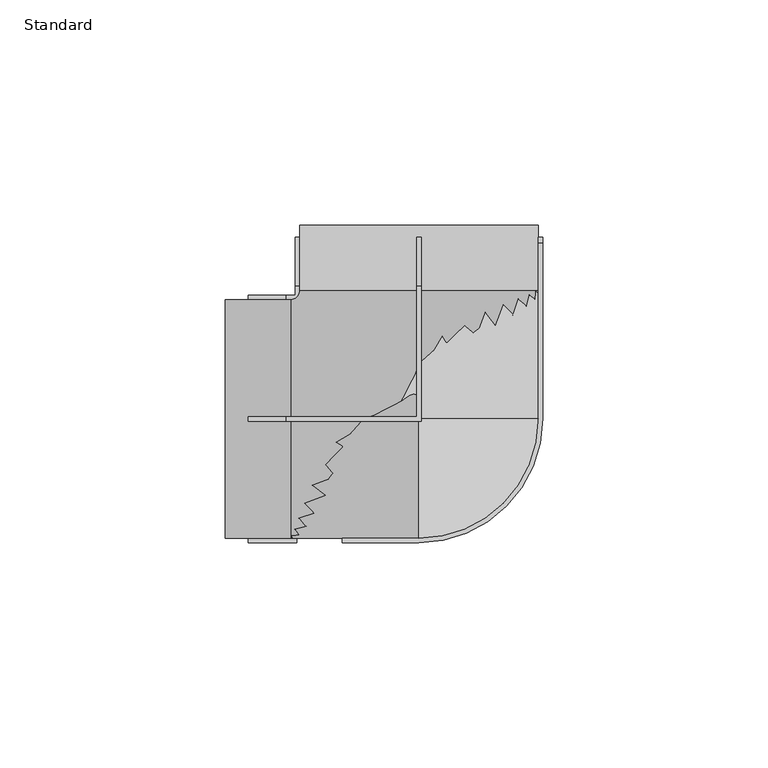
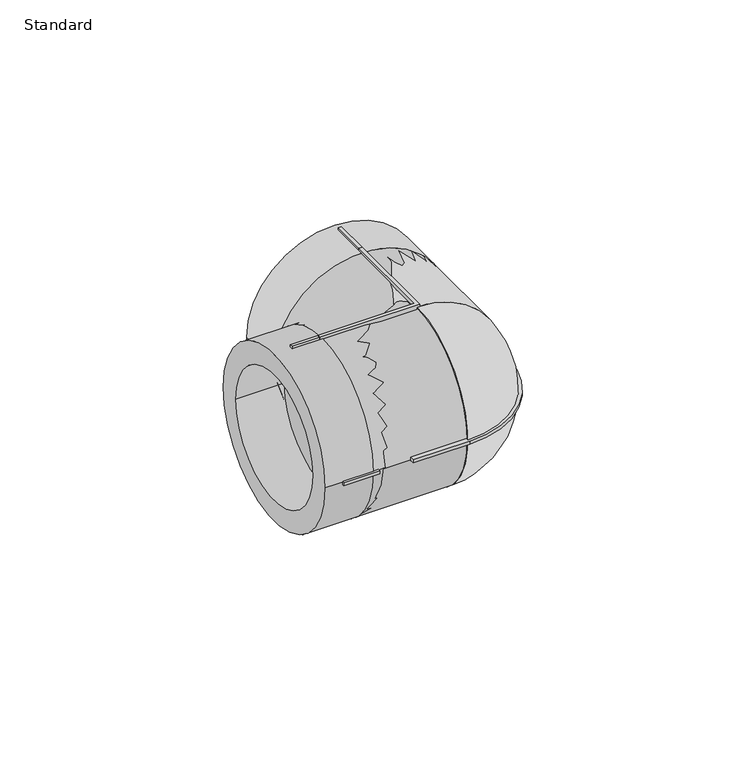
"""IFC4 building model written with IfcOpenShell, lengths in millimetres: pipe fitting geometry, EGB_VASEN_ PPR_Codo 90 WXR200_Codo 45 WXR220  : Standard."""

from ifc_helpers import new_model, si_unit, point, frame, origin, origin_2d, place, context, project, spatial, polyline, circle_curve, ellipse_curve, trimmed, segment, composite_curve, outline, extrude, source, transform, mapped, element, save
from ifc_brep_helpers import plane_surface, cylinder_surface, revolved_surface, advanced_brep


def standard_5305a469(model_context):
    return source(origin(), model_context, "Body", "SolidModel", [
        advanced_brep(
        [(0.0, 0.0, -26.5), (0.0, 0.0, 26.5)],
        [
            (0, 1, circle_curve(frame((0.0, 0.0, 0.0), z_axis=(-1.0, 0.0, 0.0), x_axis=(0.0, 1.0, 0.0)), 26.5)),
            (1, 0),
            (1, 0, circle_curve(frame((0.0, 0.0, 0.0), z_axis=(0.0, 1.0, 0.0), x_axis=(-1.0, 0.0, 0.0)), 26.5)),
        ],
        [
            plane_surface(frame((0.0, 0.0, 36.5431585), z_axis=(-1.0, 0.0, 0.0), x_axis=(0.0, -1.0, 0.0))),
            plane_surface(frame((0.0, 0.0, 36.5431585), z_axis=(0.0, 1.0, 0.0), x_axis=(1.0, 0.0, 0.0))),
            revolved_surface(trimmed(ellipse_curve(frame((0.0, 0.0, 0.0), z_axis=(1.0, 0.0, 0.0), x_axis=(0.0, 1.0, 0.0)), 26.5, 26.5), [point((0.0, 0.0, 26.5))], [point((0.0, 0.0, -26.5))], True, "CARTESIAN"), (0.0, 0.0, 36.5431585), (0.0, 0.0, -1.0)),
        ],
        [
            (0, [[1, 2]]),
            (1, [[3, -2]]),
            (2, [[-1, -3]]),
        ],
    ),
        advanced_brep(
        [(-43.0, -26.5, 0.0), (-43.0, 26.5, 0.0), (-43.0, -20.0, 0.0), (-43.0, 20.0, 0.0), (-28.5, -26.5, 0.0), (-28.5, 26.5, 0.0), (-28.5, -20.0, 0.0), (-28.5, 20.0, 0.0), (20.0, 28.5, 0.0), (-20.0, 28.5, 0.0), (-26.5, 28.5, 0.0), (26.5, 28.5, 0.0), (26.5, 43.0, 0.0), (-26.5, 43.0, 0.0), (20.0, 43.0, 0.0), (-20.0, 43.0, 0.0)],
        [
            (0, 1, circle_curve(frame((-43.0, 0.0, 0.0), z_axis=(-1.0, 0.0, 0.0), x_axis=(0.0, 1.0, 0.0)), 26.5)),
            (1, 0, circle_curve(frame((-43.0, 0.0, 0.0), z_axis=(-1.0, 0.0, 0.0), x_axis=(0.0, 1.0, 0.0)), 26.5)),
            (2, 3, circle_curve(frame((-43.0, 0.0, 0.0), z_axis=(1.0, 0.0, 0.0), x_axis=(0.0, 1.0, 0.0)), 20.0)),
            (3, 2, circle_curve(frame((-43.0, 0.0, 0.0), z_axis=(1.0, 0.0, 0.0), x_axis=(0.0, 1.0, 0.0)), 20.0)),
            (0, 4),
            (4, 5, circle_curve(frame((-28.5, 0.0, 0.0), z_axis=(-1.0, 0.0, 0.0), x_axis=(0.0, 1.0, 0.0)), 26.5)),
            (5, 1),
            (5, 4, circle_curve(frame((-28.5, 0.0, 0.0), z_axis=(-1.0, 0.0, 0.0), x_axis=(0.0, 1.0, 0.0)), 26.5)),
            (2, 6),
            (6, 7, circle_curve(frame((-28.5, 0.0, 0.0), z_axis=(1.0, 0.0, 0.0), x_axis=(0.0, 1.0, 0.0)), 20.0)),
            (7, 3),
            (7, 6, circle_curve(frame((-28.5, 0.0, 0.0), z_axis=(1.0, 0.0, 0.0), x_axis=(0.0, 1.0, 0.0)), 20.0)),
            (8, 9, circle_curve(frame((0.0, 28.5, 0.0), z_axis=(0.0, 1.0, 0.0), x_axis=(-1.0, 0.0, 0.0)), 20.0)),
            (9, 8, circle_curve(frame((0.0, 28.5, 0.0), z_axis=(0.0, 1.0, 0.0), x_axis=(-1.0, 0.0, 0.0)), 20.0)),
            (10, 5, circle_curve(frame((-28.5, 28.5, 0.0), z_axis=(0.0, 0.0, -1.0), x_axis=(0.0, -1.0, 0.0)), 2.0)),
            (4, 11, circle_curve(frame((-28.5, 28.5, 0.0), z_axis=(0.0, 0.0, 1.0), x_axis=(0.0, -1.0, 0.0)), 55.0)),
            (11, 10, circle_curve(frame((0.0, 28.5, 0.0), z_axis=(0.0, -1.0, 0.0), x_axis=(-1.0, 0.0, 0.0)), 26.5)),
            (10, 11, circle_curve(frame((0.0, 28.5, 0.0), z_axis=(0.0, -1.0, 0.0), x_axis=(-1.0, 0.0, 0.0)), 26.5)),
            (12, 13, circle_curve(frame((0.0, 43.0, 0.0), z_axis=(0.0, 1.0, 0.0), x_axis=(-1.0, 0.0, 0.0)), 26.5)),
            (13, 12, circle_curve(frame((0.0, 43.0, 0.0), z_axis=(0.0, 1.0, 0.0), x_axis=(-1.0, 0.0, 0.0)), 26.5)),
            (14, 15, circle_curve(frame((0.0, 43.0, 0.0), z_axis=(0.0, -1.0, 0.0), x_axis=(-1.0, 0.0, 0.0)), 20.0)),
            (15, 14, circle_curve(frame((0.0, 43.0, 0.0), z_axis=(0.0, -1.0, 0.0), x_axis=(-1.0, 0.0, 0.0)), 20.0)),
            (13, 10),
            (11, 12),
            (15, 9),
            (8, 14),
        ],
        [
            plane_surface(frame((-43.0, 0.0, 0.0), z_axis=(-1.0, 0.0, 0.0), x_axis=(0.0, 0.0, 1.0))),
            cylinder_surface(frame((-43.0, 0.0, 0.0), z_axis=(-1.0, 0.0, 0.0), x_axis=(0.0, 1.0, 0.0)), 26.5),
            revolved_surface(polyline([(-28.5, 20.0, 0.0), (-43.0, 20.0, 0.0)]), (-43.0, 0.0, 0.0), (1.0, 0.0, 0.0)),
            plane_surface(frame((-28.5, 0.0, 0.0), z_axis=(-1.0, 0.0, 0.0), x_axis=(0.0, 0.0, 1.0))),
            plane_surface(frame((0.0, 28.5, 0.0), z_axis=(0.0, 1.0, 0.0), x_axis=(0.0, 0.0, 1.0))),
            revolved_surface(trimmed(ellipse_curve(frame((-28.5, 0.0, 0.0), z_axis=(-1.0, 0.0, 0.0), x_axis=(0.0, 1.0, 0.0)), 26.5, 26.5), [point((-28.5, -26.5, 0.0))], [point((-28.5, 26.5, 0.0))], True, "CARTESIAN"), (-28.5, 28.5, 0.0), (0.0, 0.0, 1.0)),
            revolved_surface(trimmed(ellipse_curve(frame((-28.5, 0.0, 0.0), z_axis=(-1.0, 0.0, 0.0), x_axis=(0.0, 1.0, 0.0)), 26.5, 26.5), [point((-28.5, 26.5, 0.0))], [point((-28.5, -26.5, 0.0))], True, "CARTESIAN"), (-28.5, 28.5, 0.0), (0.0, 0.0, 1.0)),
            plane_surface(frame((0.0, 43.0, 0.0), z_axis=(0.0, 1.0, 0.0), x_axis=(0.0, 0.0, 1.0))),
            cylinder_surface(frame((0.0, 28.5, 0.0), z_axis=(0.0, -1.0, 0.0), x_axis=(-1.0, 0.0, 0.0)), 26.5),
            revolved_surface(polyline([(-20.0, 43.0, 0.0), (-20.0, 28.5, 0.0)]), (0.0, 28.5, 0.0), (0.0, 1.0, 0.0)),
        ],
        [
            (0, [[1, 2], [3, 4]]),
            (1, [[-1, 5, 6, 7]]),
            (1, [[-2, -7, 8, -5]]),
            (2, [[-3, 9, 10, 11]]),
            (2, [[-4, -11, 12, -9]]),
            (3, [[-10, -12]]),
            (4, [[13, 14]]),
            (5, [[15, -6, 16, 17]]),
            (6, [[-15, 18, -16, -8]]),
            (7, [[19, 20], [21, 22]]),
            (8, [[-20, 23, -17, 24]]),
            (8, [[-19, -24, -18, -23]]),
            (9, [[-22, 25, -13, 26]]),
            (9, [[-21, -26, -14, -25]]),
        ],
    ),
        extrude(outline(composite_curve([segment(polyline([(-17.0, -27.5), (-17.0, -25.5), (0.0, -25.5)]), True, "CONTINUOUS"), segment(trimmed(circle_curve(origin_2d(), 25.5), [point((0.0, -25.5))], [point((25.5, 0.0))], True, "CARTESIAN"), True, "CONTINUOUS"), segment(polyline([(25.5, 0.0), (25.5, 39.0), (27.5, 39.0), (27.5, 0.0)]), True, "CONTINUOUS"), segment(trimmed(circle_curve(origin_2d(), 27.5), [point((27.5, 0.0))], [point((0.0, -27.5))], False, "CARTESIAN"), True, "CONTINUOUS"), segment(polyline([(0.0, -27.5), (-17.0, -27.5)]), True, "CONTINUOUS")], self_intersect=False)), frame((0.0, 0.0, -0.5), z_axis=(0.0, 0.0, 1.0), x_axis=(1.0, 0.0, 0.0)), (0.0, 0.0, 1.0), 1.0),
        extrude(outline(polyline([(-29.5, -0.5), (-29.5, 0.5), (-0.5, 0.5), (-0.5, 29.5), (0.5, 29.5), (0.5, -0.5), (-29.5, -0.5)])), frame((0.0, 0.0, 25.5), z_axis=(0.0, 0.0, 1.0), x_axis=(1.0, 0.0, 0.0)), (0.0, 0.0, 1.0), 2.0),
        extrude(outline(polyline([(-29.5, -0.5), (-29.5, 0.5), (-0.5, 0.5), (-0.5, 29.5), (0.5, 29.5), (0.5, -0.5), (-29.5, -0.5)])), frame((0.0, 0.0, -27.5), z_axis=(0.0, 0.0, 1.0), x_axis=(1.0, 0.0, 0.0)), (0.0, 0.0, 1.0), 2.0),
        extrude(outline(polyline([(-29.5, 25.5), (-29.5, 27.5), (-27.5, 27.5), (-27.5, 29.5), (-25.5, 29.5), (-25.5, 25.5), (-29.5, 25.5)])), frame((0.0, 0.0, -0.5), z_axis=(0.0, 0.0, 1.0), x_axis=(1.0, 0.0, 0.0)), (0.0, 0.0, 1.0), 1.0),
        extrude(outline(composite_curve([segment(trimmed(circle_curve(origin_2d(), 26.5), [point((-26.5, 0.0))], [point((26.5, 0.0))], False, "CARTESIAN"), True, "CONTINUOUS"), segment(trimmed(circle_curve(origin_2d(), 26.5), [point((26.5, 0.0))], [point((-26.5, 0.0))], False, "CARTESIAN"), True, "CONTINUOUS")], self_intersect=False)), frame((-28.5, 0.0, 0.0), z_axis=(1.0, 0.0, 0.0), x_axis=(0.0, 1.0, 0.0)), (0.0, 0.0, 1.0), 28.5),
        extrude(outline(composite_curve([segment(trimmed(circle_curve(origin_2d(), 26.5), [point((0.0, -26.5))], [point((0.0, 26.5))], False, "CARTESIAN"), True, "CONTINUOUS"), segment(trimmed(circle_curve(origin_2d(), 26.5), [point((0.0, 26.5))], [point((0.0, -26.5))], False, "CARTESIAN"), True, "CONTINUOUS")], self_intersect=False)), frame((0.0, 0.0, 0.0), z_axis=(0.0, 1.0, 0.0), x_axis=(0.0, 0.0, 1.0)), (0.0, 0.0, 1.0), 28.5),
        extrude(outline(polyline([(0.5, 29.5), (-0.5, 29.5), (-0.5, 40.3), (0.5, 40.3), (0.5, 29.5)])), frame((0.0, 0.0, 25.5), z_axis=(0.0, 0.0, 1.0), x_axis=(1.0, 0.0, 0.0)), (0.0, 0.0, 1.0), 2.0),
        extrude(outline(polyline([(-25.5, 29.5), (-27.5, 29.5), (-27.5, 40.3), (-25.5, 40.3), (-25.5, 29.5)])), frame((0.0, 0.0, -0.5), z_axis=(0.0, 0.0, 1.0), x_axis=(1.0, 0.0, 0.0)), (0.0, 0.0, 1.0), 1.0),
        extrude(outline(polyline([(27.5, 29.5), (25.5, 29.5), (25.5, 40.3), (27.5, 40.3), (27.5, 29.5)])), frame((0.0, 0.0, -0.5), z_axis=(0.0, 0.0, 1.0), x_axis=(1.0, 0.0, 0.0)), (0.0, 0.0, 1.0), 1.0),
        extrude(outline(polyline([(0.5, 29.5), (-0.5, 29.5), (-0.5, 40.3), (0.5, 40.3), (0.5, 29.5)])), frame((0.0, 0.0, -27.5), z_axis=(0.0, 0.0, 1.0), x_axis=(1.0, 0.0, 0.0)), (0.0, 0.0, 1.0), 2.0),
        extrude(outline(polyline([(-27.1, 0.5), (-27.1, -0.5), (-37.9, -0.5), (-37.9, 0.5), (-27.1, 0.5)])), frame((0.0, 0.0, 25.5), z_axis=(0.0, 0.0, 1.0), x_axis=(1.0, 0.0, 0.0)), (0.0, 0.0, 1.0), 2.0),
        extrude(outline(polyline([(-27.1, 0.5), (-27.1, -0.5), (-37.9, -0.5), (-37.9, 0.5), (-27.1, 0.5)])), frame((0.0, 0.0, -27.5), z_axis=(0.0, 0.0, 1.0), x_axis=(1.0, 0.0, 0.0)), (0.0, 0.0, 1.0), 2.0),
        extrude(outline(polyline([(-27.1, 27.5), (-27.1, 25.5), (-37.9, 25.5), (-37.9, 27.5), (-27.1, 27.5)])), frame((0.0, 0.0, -0.5), z_axis=(0.0, 0.0, 1.0), x_axis=(1.0, 0.0, 0.0)), (0.0, 0.0, 1.0), 1.0),
        extrude(outline(polyline([(-27.1, -25.5), (-27.1, -27.5), (-37.9, -27.5), (-37.9, -25.5), (-27.1, -25.5)])), frame((0.0, 0.0, -0.5), z_axis=(0.0, 0.0, 1.0), x_axis=(1.0, 0.0, 0.0)), (0.0, 0.0, 1.0), 1.0),
    ])


if __name__ == "__main__":
    model = new_model("IFC4")
    model_context = context("Model", 3, world=origin())
    ifc_project = project(units=[si_unit("LENGTHUNIT", "METRE", prefix="MILLI")], contexts=[model_context])
    site = spatial("IfcSite", under=ifc_project)
    building = spatial("IfcBuilding", under=site)
    placement = place(None, origin())
    standard_shape = standard_5305a469(model_context)
    element("IfcPipeFitting", 1, ObjectType="EGB_VASEN_ PPR_Codo 90 WXR200_Codo 45 WXR220  : Standard", at=placement, inside=building, context=model_context, shape_type="MappedRepresentation", body=[
        mapped(standard_shape, transform((0.0, 0.0, 0.0), x_axis=(1.0, 0.0, 0.0), y_axis=(0.0, 1.0, 0.0), z_axis=(0.0, 0.0, 1.0))),
    ])
    save(model, "model.ifc")
